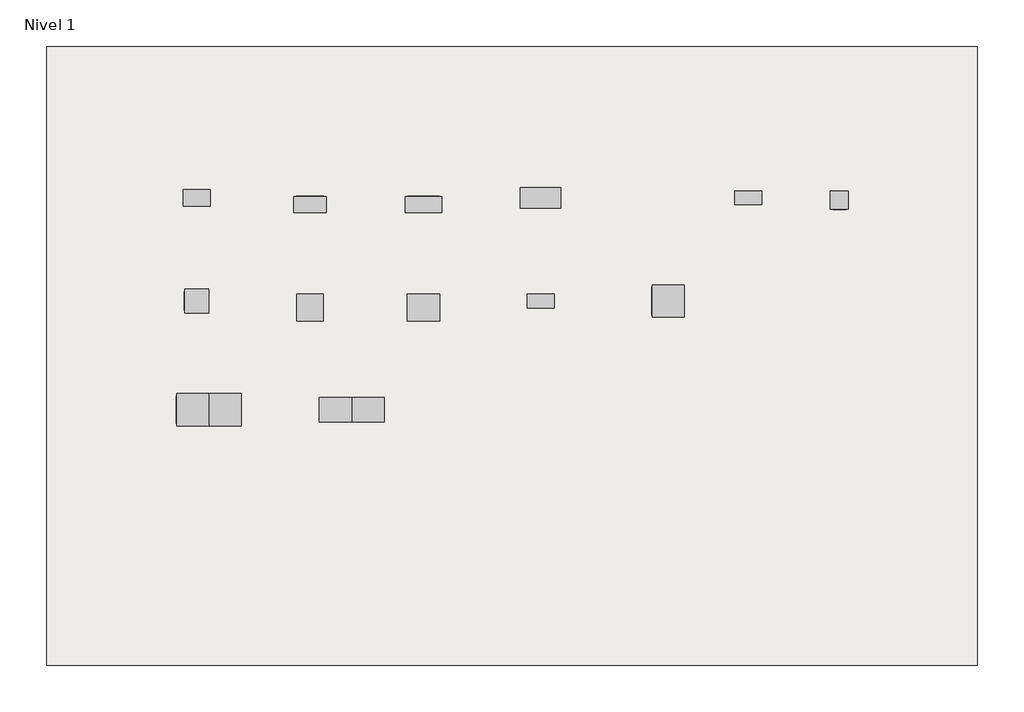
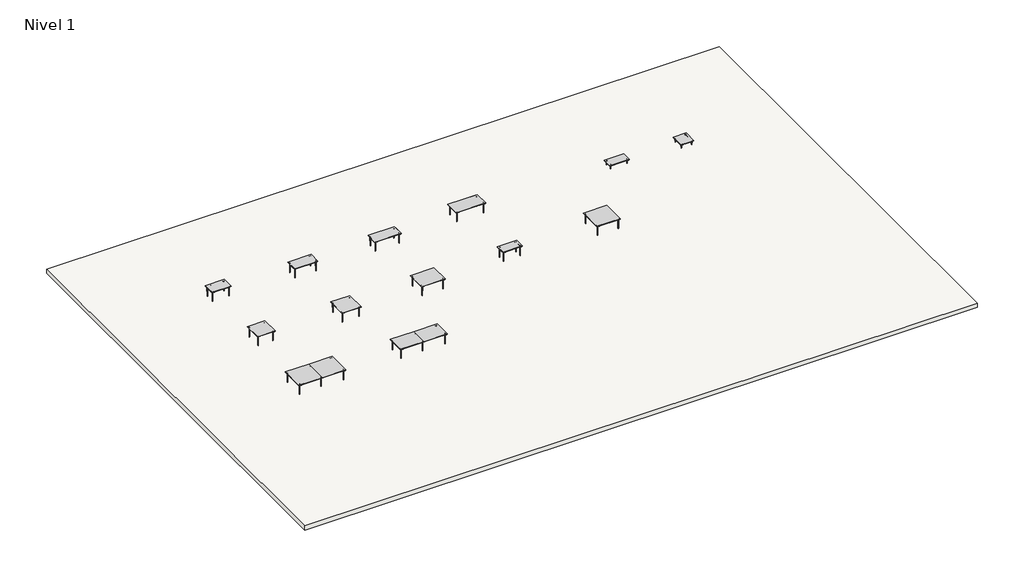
# One storey: 13 furniture elements, 1 slab.
"""IFC4 building model written with IfcOpenShell, lengths in millimetres."""

from ifc_helpers import new_model, si_unit, frame, origin, place, context, project, spatial, polyline, outline, extrude, transform, mapped, element, save
from components import lnm02_f6140898, lnm03_3ccea197, lnm13_1a002fa4, lnm14_2fae6fb0, lnm15_e7bb8237, lnm16_9b7a4f71, lnm43_4dd2b5fd, lnm48_fb573a42, lnm48_bbb13878, lnm53_39415d5a, lnm55_e12bd296, lnm63_42b72f23, lnm85_bd95a6df, lnm88_35c4ff98, lnm88_339ca961

model = new_model("IFC4")

# Units and contexts
model_context = context("Model", 3, world=origin())
ifc_project = project(units=[si_unit("LENGTHUNIT", "METRE", prefix="MILLI")], contexts=[model_context])

# Site, building, storey
site = spatial("IfcSite", under=ifc_project)
building = spatial("IfcBuilding", under=site)
storey = spatial("IfcBuildingStorey", under=building, Name="Nivel 1", Elevation=0.0)

# Furniture
placement = place(None, origin())
lnm02_shape = lnm02_f6140898(model_context)
element("IfcFurniture", 1, ObjectType="Coffe Tables : LNM02", at=placement, inside=storey, context=model_context, shape_type="MappedRepresentation", body=[
    mapped(lnm02_shape, transform((7197.0841762, 8580.4375835, 0.0), x_axis=(1.0, 0.0, 0.0), y_axis=(0.0, 1.0, 0.0), z_axis=(0.0, 0.0, 1.0))),
])
lnm03_shape = lnm03_3ccea197(model_context)
element("IfcFurniture", 2, ObjectType="Coffe Tables : LNM03", at=placement, inside=storey, context=model_context, shape_type="MappedRepresentation", body=[
    mapped(lnm03_shape, transform((11697.0841762, 8465.4375835, 0.0), x_axis=(1.0, 0.0, 0.0), y_axis=(0.0, 1.0, 0.0), z_axis=(0.0, 0.0, 1.0))),
])
lnm13_shape = lnm13_1a002fa4(model_context)
element("IfcFurniture", 3, ObjectType="Contact Desks and Operative Twin Desks : LNM13", at=placement, inside=storey, context=model_context, shape_type="MappedRepresentation", body=[
    mapped(lnm13_shape, transform((-20059.2170675, 8580.4375835, 0.0), x_axis=(1.0, 0.0, 0.0), y_axis=(0.0, 1.0, 0.0), z_axis=(0.0, 0.0, 1.0))),
])
lnm14_shape = lnm14_2fae6fb0(model_context)
element("IfcFurniture", 4, ObjectType="Contact Desks and Operative Twin Desks : LNM14", at=placement, inside=storey, context=model_context, shape_type="MappedRepresentation", body=[
    mapped(lnm14_shape, transform((-14459.2170675, 8255.4375835, 0.0), x_axis=(1.0, 0.0, 0.0), y_axis=(0.0, 1.0, 0.0), z_axis=(0.0, 0.0, 1.0))),
])
lnm15_shape = lnm15_e7bb8237(model_context)
element("IfcFurniture", 5, ObjectType="Contact Desks and Operative Twin Desks : LNM15", at=placement, inside=storey, context=model_context, shape_type="MappedRepresentation", body=[
    mapped(lnm15_shape, transform((-8859.2170675, 8255.4375835, 0.0), x_axis=(1.0, 0.0, 0.0), y_axis=(0.0, 1.0, 0.0), z_axis=(0.0, 0.0, 1.0))),
])
lnm16_shape = lnm16_9b7a4f71(model_context)
element("IfcFurniture", 6, ObjectType="Contact Desks and Operative Twin Desks : LNM16", at=placement, inside=storey, context=model_context, shape_type="MappedRepresentation", body=[
    mapped(lnm16_shape, transform((-3059.2170675, 8580.4375835, 0.0), x_axis=(1.0, 0.0, 0.0), y_axis=(0.0, 1.0, 0.0), z_axis=(0.0, 0.0, 1.0))),
])
lnm43_shape = lnm43_4dd2b5fd(model_context)
element("IfcFurniture", 7, ObjectType="Contact Desks and Operative Twin Desks : LNM43", at=placement, inside=storey, context=model_context, shape_type="MappedRepresentation", body=[
    mapped(lnm43_shape, transform((-20059.2170675, 3480.4375835, 0.0), x_axis=(1.0, 0.0, 0.0), y_axis=(0.0, 1.0, 0.0), z_axis=(0.0, 0.0, 1.0))),
])
lnm48_shape = lnm48_fb573a42(model_context)
lnm48_2_shape = lnm48_bbb13878(model_context)
element("IfcFurniture", 8, ObjectType="Operative Twin Desks : LNM48", at=placement, inside=storey, context=model_context, shape_type="MappedRepresentation", body=[
    mapped(lnm48_shape, transform((-12391.3691772, -1896.8613675, 0.0), x_axis=(1.0, 0.0, 0.0), y_axis=(0.0, 1.0, 0.0), z_axis=(0.0, 0.0, 1.0))),
    mapped(lnm48_2_shape, transform((-12391.3691772, -1896.8613675, 0.0), x_axis=(1.0, 0.0, 0.0), y_axis=(0.0, 1.0, 0.0), z_axis=(0.0, 0.0, 1.0))),
])
lnm53_shape = lnm53_39415d5a(model_context)
element("IfcFurniture", 9, ObjectType="Contact Desks and Operative Twin Desks : LNM53", at=placement, inside=storey, context=model_context, shape_type="MappedRepresentation", body=[
    mapped(lnm53_shape, transform((-14459.2170675, 3155.4375835, 0.0), x_axis=(1.0, 0.0, 0.0), y_axis=(0.0, 1.0, 0.0), z_axis=(0.0, 0.0, 1.0))),
])
lnm55_shape = lnm55_e12bd296(model_context)
element("IfcFurniture", 10, ObjectType="Contact Desks and Operative Twin Desks : LNM55", at=placement, inside=storey, context=model_context, shape_type="MappedRepresentation", body=[
    mapped(lnm55_shape, transform((-8859.2170675, 3155.4375835, 0.0), x_axis=(1.0, 0.0, 0.0), y_axis=(0.0, 1.0, 0.0), z_axis=(0.0, 0.0, 1.0))),
])
lnm63_shape = lnm63_42b72f23(model_context)
element("IfcFurniture", 11, ObjectType="Contact Desks and Operative Twin Desks : LNM63", at=placement, inside=storey, context=model_context, shape_type="MappedRepresentation", body=[
    mapped(lnm63_shape, transform((-3059.2170675, 3480.4375835, 0.0), x_axis=(1.0, 0.0, 0.0), y_axis=(0.0, 1.0, 0.0), z_axis=(0.0, 0.0, 1.0))),
])
lnm85_shape = lnm85_bd95a6df(model_context)
element("IfcFurniture", 12, ObjectType="Contact Desks and Operative Twin Desks : LNM85", at=placement, inside=storey, context=model_context, shape_type="MappedRepresentation", body=[
    mapped(lnm85_shape, transform((3240.7829325, 3480.4375835, 0.0), x_axis=(1.0, 0.0, 0.0), y_axis=(0.0, 1.0, 0.0), z_axis=(0.0, 0.0, 1.0))),
])
lnm88_shape = lnm88_35c4ff98(model_context)
lnm88_2_shape = lnm88_339ca961(model_context)
element("IfcFurniture", 13, ObjectType="Operative Twin Desks : LNM88", at=placement, inside=storey, context=model_context, shape_type="MappedRepresentation", body=[
    mapped(lnm88_shape, transform((-19454.6903949, -1896.8613675, 0.0), x_axis=(1.0, 0.0, 0.0), y_axis=(0.0, 1.0, 0.0), z_axis=(0.0, 0.0, 1.0))),
    mapped(lnm88_2_shape, transform((-19454.6903949, -1896.8613675, 0.0), x_axis=(1.0, 0.0, 0.0), y_axis=(0.0, 1.0, 0.0), z_axis=(0.0, 0.0, 1.0))),
])

# Slab
element("IfcSlab", 14, ObjectType="Por defecto - 30 cm", at=placement, inside=storey, context=model_context, shape_type="SweptSolid", body=[
    extrude(outline(polyline([(18522.8090267, 16066.8284273), (18522.8090267, -14533.1715727), (-27477.1909733, -14533.1715727), (-27477.1909733, 16066.8284273), (18522.8090267, 16066.8284273)])), frame((0.0, 0.0, -300.0), z_axis=(0.0, 0.0, 1.0), x_axis=(1.0, 0.0, 0.0)), (0.0, 0.0, 1.0), 300.0),
])

save(model, "model.ifc")
